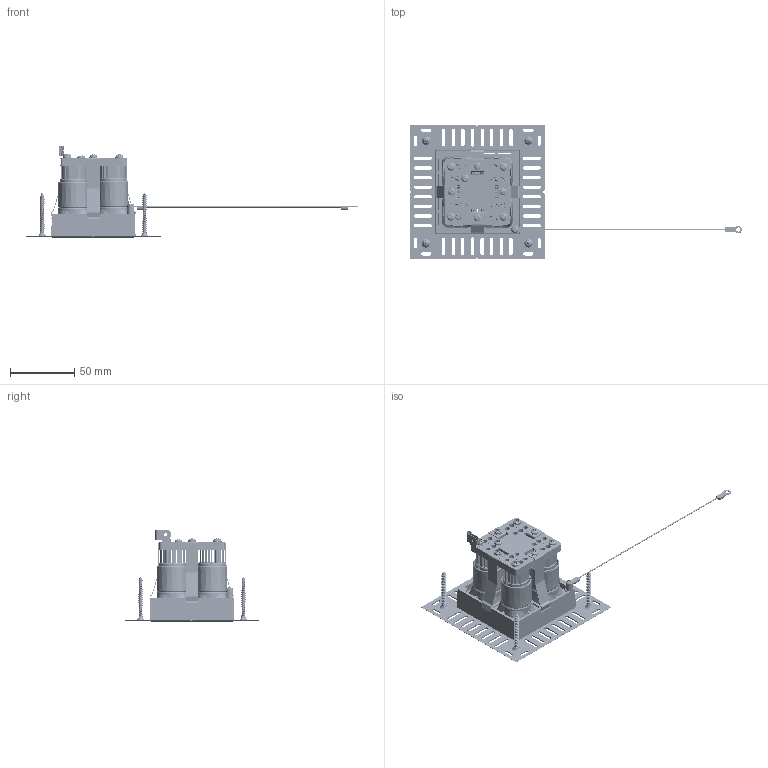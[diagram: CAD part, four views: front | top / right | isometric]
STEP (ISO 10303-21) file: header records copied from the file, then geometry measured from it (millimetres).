
FILE_DESCRIPTION((''),'2;1');
FILE_NAME('MOOD_PRO_4X_SQU_TRIML_ASM','2020-10-22T',('Administrator'),(''),'PRO/ENGINEER BY PARAMETRIC TECHNOLOGY CORPORATION, 2001280','PRO/ENGINEER BY PARAMETRIC TECHNOLOGY CORPORATION, 2001280','');
FILE_SCHEMA(('CONFIG_CONTROL_DESIGN'));
Length unit declared in the file: millimetre
Products named in the file (23): 44528_6_5; LG10B_ASM_4_ASM_2_ASM; MOOD_4X_42252_5_2; 42249_1_1; 41223_3_1; CD52961_10; 1_52340-PCB_4; 1_34839_1; 42252-41223-52961-52340_ASM_6_ASM; 1_54803_4; 1_01723_1; 1_21117-M320_2; PARTBODY_1-100368_2; PARTBODY_2-102027_4; PARTBODY_3_2; 1_42808_00_0_ASM_5_ASM; 1-00635_2; MOOD_PRO_4X_SQU_TRIM_ASM_12_ASM; 44527-190425; 31574; 01723; 1-38486; MOOD_PRO_4X_SQU_TRIML_ASM
Assembly tree (39 placements, depth 4):
  MOOD_PRO_4X_SQU_TRIML_ASM
    MOOD_PRO_4X_SQU_TRIM_ASM_12_ASM
      LG10B_ASM_4_ASM_2_ASM
        44528_6_5
      42252-41223-52961-52340_ASM_6_ASM  x4
        MOOD_4X_42252_5_2
        42249_1_1
        41223_3_1
        CD52961_10
        1_52340-PCB_4
        1_34839_1
      1_54803_4  x4
      1_01723_1  x4
      1_21117-M320_2  x5
      1_42808_00_0_ASM_5_ASM
        PARTBODY_1-100368_2
        PARTBODY_2-102027_4
        PARTBODY_3_2
      1-00635_2
    44527-190425
    31574
    01723
    1-38486  x4
Bounding box: 258.9 x 105 x 72.4 mm (x, y, z)
Volume: 82526.1 mm3; surface area: 113320.1 mm2
Topology: 53 solids, 53 shells, 4210 faces, 11458 edges, 7339 vertices
Faces by surface type: plane 2017, cylinder 1096, bspline 505, cone 450, sphere 52, extrusion 50, torus 24, revolution 16
Entity records: 69339 total; most frequent: CARTESIAN_POINT 26492, ORIENTED_EDGE 9282, DIRECTION 8116, EDGE_CURVE 4641, VERTEX_POINT 3011, AXIS2_PLACEMENT_3D 2793, VECTOR 2526, LINE 2476
